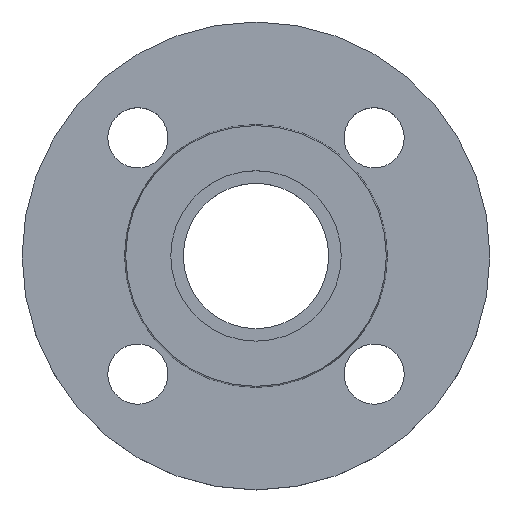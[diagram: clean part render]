
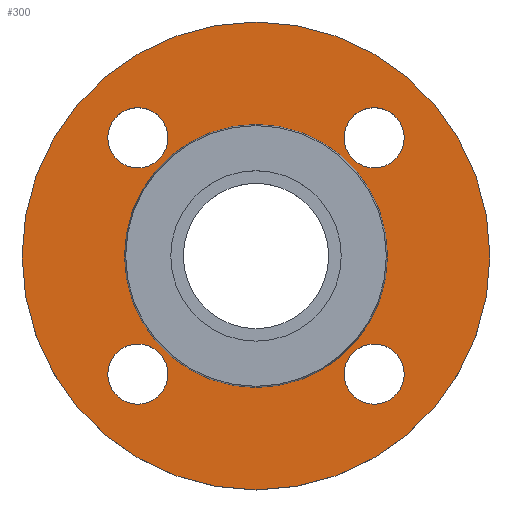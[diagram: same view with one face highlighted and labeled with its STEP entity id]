
A CAD part, top view. The second image highlights one B-rep face of the part: STEP entity #300.
In plain terms, the highlighted planar face has unit normal (0, 0, 1).
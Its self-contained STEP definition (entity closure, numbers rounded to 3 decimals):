
#6 = AXIS2_PLACEMENT_3D ( 'NONE', #311, #526, #59 ) ;
#13 = DIRECTION ( 'NONE',  ( -1., 0., 0. ) ) ;
#23 = CARTESIAN_POINT ( 'NONE',  ( 0., 0., -2. ) ) ;
#27 = ORIENTED_EDGE ( 'NONE', *, *, #63, .T. ) ;
#30 = CARTESIAN_POINT ( 'NONE',  ( -26.355, -35.355, -2. ) ) ;
#52 = VERTEX_POINT ( 'NONE', #549 ) ;
#58 = VERTEX_POINT ( 'NONE', #30 ) ;
#59 = DIRECTION ( 'NONE',  ( 1., 0., 0. ) ) ;
#60 = VERTEX_POINT ( 'NONE', #230 ) ;
#63 = EDGE_CURVE ( 'NONE', #52, #165, #67, .T. ) ;
#64 = VERTEX_POINT ( 'NONE', #388 ) ;
#65 = ORIENTED_EDGE ( 'NONE', *, *, #91, .T. ) ;
#67 = CIRCLE ( 'NONE', #441, 9. ) ;
#80 = AXIS2_PLACEMENT_3D ( 'NONE', #101, #303, #519 ) ;
#85 = AXIS2_PLACEMENT_3D ( 'NONE', #258, #475, #13 ) ;
#91 = EDGE_CURVE ( 'NONE', #226, #60, #149, .T. ) ;
#95 = DIRECTION ( 'NONE',  ( 0., 0., -1. ) ) ;
#101 = CARTESIAN_POINT ( 'NONE',  ( 39.353, 0., -2. ) ) ;
#112 = VERTEX_POINT ( 'NONE', #469 ) ;
#128 = CIRCLE ( 'NONE', #508, 9. ) ;
#129 = CARTESIAN_POINT ( 'NONE',  ( 35.355, 35.355, -2. ) ) ;
#133 = CARTESIAN_POINT ( 'NONE',  ( 35.355, 35.355, -2. ) ) ;
#135 = DIRECTION ( 'NONE',  ( 1., 0., 0. ) ) ;
#138 = EDGE_CURVE ( 'NONE', #165, #52, #591, .T. ) ;
#141 = CARTESIAN_POINT ( 'NONE',  ( 0., 0., -2. ) ) ;
#148 = FACE_BOUND ( 'NONE', #365, .T. ) ;
#149 = CIRCLE ( 'NONE', #536, 9. ) ;
#150 = CARTESIAN_POINT ( 'NONE',  ( -35.355, 35.355, -2. ) ) ;
#151 = EDGE_CURVE ( 'NONE', #112, #420, #380, .T. ) ;
#153 = AXIS2_PLACEMENT_3D ( 'NONE', #186, #392, #606 ) ;
#156 = ORIENTED_EDGE ( 'NONE', *, *, #138, .T. ) ;
#161 = VERTEX_POINT ( 'NONE', #209 ) ;
#165 = VERTEX_POINT ( 'NONE', #418 ) ;
#174 = AXIS2_PLACEMENT_3D ( 'NONE', #659, #190, #397 ) ;
#178 = AXIS2_PLACEMENT_3D ( 'NONE', #150, #355, #571 ) ;
#180 = DIRECTION ( 'NONE',  ( 1., 0., 0. ) ) ;
#181 = CIRCLE ( 'NONE', #570, 9. ) ;
#186 = CARTESIAN_POINT ( 'NONE',  ( -35.355, 35.355, -2. ) ) ;
#189 = ORIENTED_EDGE ( 'NONE', *, *, #411, .T. ) ;
#190 = DIRECTION ( 'NONE',  ( 0., 0., -1. ) ) ;
#197 = FACE_BOUND ( 'NONE', #375, .T. ) ;
#208 = EDGE_LOOP ( 'NONE', ( #533, #242 ) ) ;
#209 = CARTESIAN_POINT ( 'NONE',  ( 39.353, 0., -2. ) ) ;
#213 = EDGE_CURVE ( 'NONE', #58, #330, #128, .T. ) ;
#217 = CIRCLE ( 'NONE', #599, 9. ) ;
#220 = DIRECTION ( 'NONE',  ( 0., 0., -1. ) ) ;
#226 = VERTEX_POINT ( 'NONE', #403 ) ;
#230 = CARTESIAN_POINT ( 'NONE',  ( 26.355, 35.355, -2. ) ) ;
#242 = ORIENTED_EDGE ( 'NONE', *, *, #582, .T. ) ;
#249 = ORIENTED_EDGE ( 'NONE', *, *, #213, .T. ) ;
#253 = VERTEX_POINT ( 'NONE', #623 ) ;
#254 = EDGE_CURVE ( 'NONE', #663, #253, #480, .T. ) ;
#257 = EDGE_LOOP ( 'NONE', ( #27, #156 ) ) ;
#258 = CARTESIAN_POINT ( 'NONE',  ( 0., 0., -2. ) ) ;
#260 = AXIS2_PLACEMENT_3D ( 'NONE', #141, #346, #560 ) ;
#263 = ORIENTED_EDGE ( 'NONE', *, *, #464, .T. ) ;
#268 = ORIENTED_EDGE ( 'NONE', *, *, #494, .T. ) ;
#272 = AXIS2_PLACEMENT_3D ( 'NONE', #23, #220, #429 ) ;
#295 = DIRECTION ( 'NONE',  ( 1., 0., 0. ) ) ;
#300 = ADVANCED_FACE ( 'NONE', ( #668, #197, #404, #620, #148, #354 ), #568, .T. ) ;
#303 = DIRECTION ( 'NONE',  ( 0., 0., 1. ) ) ;
#311 = CARTESIAN_POINT ( 'NONE',  ( 35.355, -35.355, -2. ) ) ;
#330 = VERTEX_POINT ( 'NONE', #632 ) ;
#332 = DIRECTION ( 'NONE',  ( 0., 0., -1. ) ) ;
#337 = DIRECTION ( 'NONE',  ( 0., 0., -1. ) ) ;
#346 = DIRECTION ( 'NONE',  ( 0., 0., -1. ) ) ;
#354 = FACE_OUTER_BOUND ( 'NONE', #370, .T. ) ;
#355 = DIRECTION ( 'NONE',  ( 0., 0., -1. ) ) ;
#365 = EDGE_LOOP ( 'NONE', ( #189, #483 ) ) ;
#370 = EDGE_LOOP ( 'NONE', ( #527, #580 ) ) ;
#375 = EDGE_LOOP ( 'NONE', ( #249, #268 ) ) ;
#380 = CIRCLE ( 'NONE', #85, 70. ) ;
#388 = CARTESIAN_POINT ( 'NONE',  ( -39.353, 0., -2. ) ) ;
#390 = CARTESIAN_POINT ( 'NONE',  ( -35.355, -35.355, -2. ) ) ;
#392 = DIRECTION ( 'NONE',  ( 0., 0., -1. ) ) ;
#397 = DIRECTION ( 'NONE',  ( -1., 0., 0. ) ) ;
#403 = CARTESIAN_POINT ( 'NONE',  ( 44.355, 35.355, -2. ) ) ;
#404 = FACE_BOUND ( 'NONE', #208, .T. ) ;
#411 = EDGE_CURVE ( 'NONE', #64, #161, #572, .T. ) ;
#418 = CARTESIAN_POINT ( 'NONE',  ( 26.355, -35.355, -2. ) ) ;
#420 = VERTEX_POINT ( 'NONE', #645 ) ;
#429 = DIRECTION ( 'NONE',  ( -1., 0., 0. ) ) ;
#439 = CARTESIAN_POINT ( 'NONE',  ( 35.355, -35.355, -2. ) ) ;
#441 = AXIS2_PLACEMENT_3D ( 'NONE', #439, #651, #180 ) ;
#444 = CIRCLE ( 'NONE', #153, 9. ) ;
#464 = EDGE_CURVE ( 'NONE', #60, #226, #217, .T. ) ;
#468 = EDGE_LOOP ( 'NONE', ( #65, #263 ) ) ;
#469 = CARTESIAN_POINT ( 'NONE',  ( 70., 0., -2. ) ) ;
#474 = CIRCLE ( 'NONE', #174, 70. ) ;
#475 = DIRECTION ( 'NONE',  ( 0., 0., -1. ) ) ;
#480 = CIRCLE ( 'NONE', #178, 9. ) ;
#483 = ORIENTED_EDGE ( 'NONE', *, *, #667, .T. ) ;
#494 = EDGE_CURVE ( 'NONE', #330, #58, #181, .T. ) ;
#508 = AXIS2_PLACEMENT_3D ( 'NONE', #561, #95, #295 ) ;
#519 = DIRECTION ( 'NONE',  ( 1., 0., 0. ) ) ;
#526 = DIRECTION ( 'NONE',  ( 0., 0., -1. ) ) ;
#527 = ORIENTED_EDGE ( 'NONE', *, *, #151, .F. ) ;
#533 = ORIENTED_EDGE ( 'NONE', *, *, #254, .T. ) ;
#536 = AXIS2_PLACEMENT_3D ( 'NONE', #133, #337, #551 ) ;
#546 = DIRECTION ( 'NONE',  ( 1., 0., 0. ) ) ;
#549 = CARTESIAN_POINT ( 'NONE',  ( 44.355, -35.355, -2. ) ) ;
#551 = DIRECTION ( 'NONE',  ( 1., 0., 0. ) ) ;
#556 = CIRCLE ( 'NONE', #260, 39.353 ) ;
#560 = DIRECTION ( 'NONE',  ( -1., 0., 0. ) ) ;
#561 = CARTESIAN_POINT ( 'NONE',  ( -35.355, -35.355, -2. ) ) ;
#568 = PLANE ( 'NONE',  #80 ) ;
#570 = AXIS2_PLACEMENT_3D ( 'NONE', #390, #602, #135 ) ;
#571 = DIRECTION ( 'NONE',  ( 1., 0., 0. ) ) ;
#572 = CIRCLE ( 'NONE', #272, 39.353 ) ;
#580 = ORIENTED_EDGE ( 'NONE', *, *, #634, .F. ) ;
#582 = EDGE_CURVE ( 'NONE', #253, #663, #444, .T. ) ;
#591 = CIRCLE ( 'NONE', #6, 9. ) ;
#599 = AXIS2_PLACEMENT_3D ( 'NONE', #129, #332, #546 ) ;
#602 = DIRECTION ( 'NONE',  ( 0., 0., -1. ) ) ;
#606 = DIRECTION ( 'NONE',  ( 1., 0., 0. ) ) ;
#611 = CARTESIAN_POINT ( 'NONE',  ( -26.355, 35.355, -2. ) ) ;
#620 = FACE_BOUND ( 'NONE', #468, .T. ) ;
#623 = CARTESIAN_POINT ( 'NONE',  ( -44.355, 35.355, -2. ) ) ;
#632 = CARTESIAN_POINT ( 'NONE',  ( -44.355, -35.355, -2. ) ) ;
#634 = EDGE_CURVE ( 'NONE', #420, #112, #474, .T. ) ;
#645 = CARTESIAN_POINT ( 'NONE',  ( -70., 0., -2. ) ) ;
#651 = DIRECTION ( 'NONE',  ( 0., 0., -1. ) ) ;
#659 = CARTESIAN_POINT ( 'NONE',  ( 0., 0., -2. ) ) ;
#663 = VERTEX_POINT ( 'NONE', #611 ) ;
#667 = EDGE_CURVE ( 'NONE', #161, #64, #556, .T. ) ;
#668 = FACE_BOUND ( 'NONE', #257, .T. ) ;
